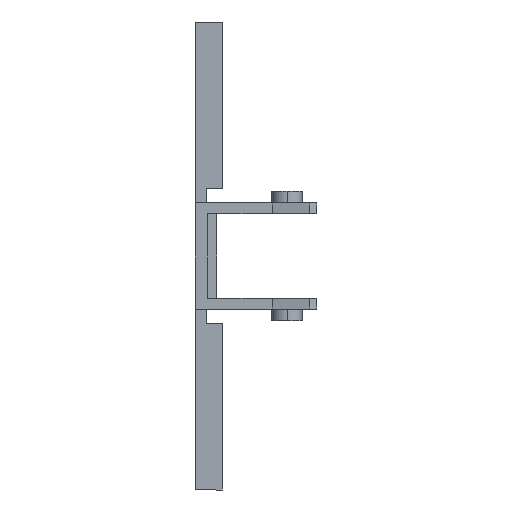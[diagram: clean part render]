
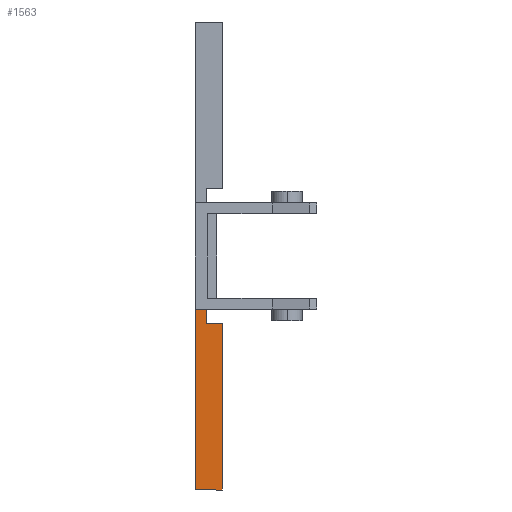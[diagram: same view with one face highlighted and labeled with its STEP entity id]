
A CAD part, front view. The second image highlights one B-rep face of the part: STEP entity #1563.
In plain terms, the highlighted planar face has unit normal (0, -1, 0).
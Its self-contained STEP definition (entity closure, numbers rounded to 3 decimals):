
#24 = AXIS2_PLACEMENT_3D ( 'NONE', #2212, #2208, #2209 ) ;
#63 = EDGE_CURVE ( 'NONE', #2453, #2446, #1098, .T. ) ;
#71 = EDGE_CURVE ( 'NONE', #2451, #2441, #1091, .T. ) ;
#98 = EDGE_CURVE ( 'NONE', #2441, #2453, #1043, .T. ) ;
#151 = EDGE_CURVE ( 'NONE', #2455, #2456, #954, .T. ) ;
#264 = EDGE_CURVE ( 'NONE', #2455, #2451, #801, .T. ) ;
#299 = EDGE_CURVE ( 'NONE', #2446, #2456, #757, .T. ) ;
#366 = CARTESIAN_POINT ( 'NONE',  ( 3., -9., -26. ) ) ;
#369 = DIRECTION ( 'NONE',  ( 1., 0., 0. ) ) ;
#396 = DIRECTION ( 'NONE',  ( 0., 0., 1. ) ) ;
#397 = CARTESIAN_POINT ( 'NONE',  ( 3., -9., -7.5 ) ) ;
#408 = DIRECTION ( 'NONE',  ( -1., 0., 0. ) ) ;
#550 = CARTESIAN_POINT ( 'NONE',  ( 1.2, -9., -7.5 ) ) ;
#756 = VECTOR ( 'NONE', #2046, 1000. ) ;
#757 = LINE ( 'NONE', #2045, #756 ) ;
#800 = VECTOR ( 'NONE', #1869, 1000. ) ;
#801 = LINE ( 'NONE', #1870, #800 ) ;
#954 = LINE ( 'NONE', #1628, #960 ) ;
#960 = VECTOR ( 'NONE', #1629, 1000. ) ;
#1032 = VECTOR ( 'NONE', #396, 1000. ) ;
#1043 = LINE ( 'NONE', #397, #1032 ) ;
#1084 = VECTOR ( 'NONE', #369, 1000. ) ;
#1091 = LINE ( 'NONE', #366, #1084 ) ;
#1094 = VECTOR ( 'NONE', #408, 1000. ) ;
#1098 = LINE ( 'NONE', #550, #1094 ) ;
#1180 = EDGE_LOOP ( 'NONE', ( #1393, #1394, #1395, #1383, #1385, #1386 ) ) ;
#1383 = ORIENTED_EDGE ( 'NONE', *, *, #98, .T. ) ;
#1385 = ORIENTED_EDGE ( 'NONE', *, *, #63, .T. ) ;
#1386 = ORIENTED_EDGE ( 'NONE', *, *, #299, .T. ) ;
#1393 = ORIENTED_EDGE ( 'NONE', *, *, #151, .F. ) ;
#1394 = ORIENTED_EDGE ( 'NONE', *, *, #264, .T. ) ;
#1395 = ORIENTED_EDGE ( 'NONE', *, *, #71, .T. ) ;
#1444 = FACE_OUTER_BOUND ( 'NONE', #1180, .T. ) ;
#1563 = ADVANCED_FACE ( 'NONE', ( #1444 ), #2213, .F. ) ;
#1628 = CARTESIAN_POINT ( 'NONE',  ( 1.2, -9., -5.9 ) ) ;
#1629 = DIRECTION ( 'NONE',  ( 1., 0., 0. ) ) ;
#1869 = DIRECTION ( 'NONE',  ( 0., 0., -1. ) ) ;
#1870 = CARTESIAN_POINT ( 'NONE',  ( 0., -9., -26. ) ) ;
#2045 = CARTESIAN_POINT ( 'NONE',  ( 1.2, -9., -5. ) ) ;
#2046 = DIRECTION ( 'NONE',  ( 0., 0., 1. ) ) ;
#2208 = DIRECTION ( 'NONE',  ( 0., 1., 0. ) ) ;
#2209 = DIRECTION ( 'NONE',  ( 0., 0., 1. ) ) ;
#2212 = CARTESIAN_POINT ( 'NONE',  ( 1.2, -9., -5. ) ) ;
#2213 = PLANE ( 'NONE',  #24 ) ;
#2441 = VERTEX_POINT ( 'NONE', #2650 ) ;
#2446 = VERTEX_POINT ( 'NONE', #2680 ) ;
#2451 = VERTEX_POINT ( 'NONE', #2660 ) ;
#2453 = VERTEX_POINT ( 'NONE', #2664 ) ;
#2455 = VERTEX_POINT ( 'NONE', #2665 ) ;
#2456 = VERTEX_POINT ( 'NONE', #2667 ) ;
#2650 = CARTESIAN_POINT ( 'NONE',  ( 3., -9., -26. ) ) ;
#2660 = CARTESIAN_POINT ( 'NONE',  ( 0., -9., -26. ) ) ;
#2664 = CARTESIAN_POINT ( 'NONE',  ( 3., -9., -7.5 ) ) ;
#2665 = CARTESIAN_POINT ( 'NONE',  ( 0., -9., -5.9 ) ) ;
#2667 = CARTESIAN_POINT ( 'NONE',  ( 1.2, -9., -5.9 ) ) ;
#2680 = CARTESIAN_POINT ( 'NONE',  ( 1.2, -9., -7.5 ) ) ;
